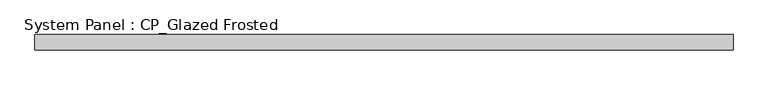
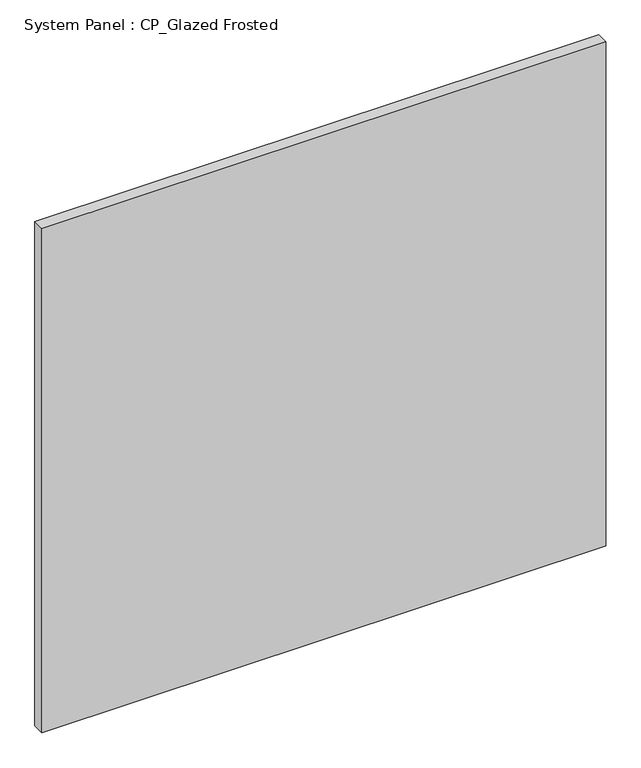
"""IFC4 building model written with IfcOpenShell, lengths in millimetres: plate geometry, System Panel : CP_Glazed Frosted."""

import ifcopenshell
import ifcopenshell.guid

model = None  # the IFC model being written
_history = None  # IfcOwnerHistory: only IFC2X3 demands one
_inside = {}  # id of a spatial element -> (the spatial element, [elements in it])
_under = {}  # id of a project, library or spatial element -> (it, [spatial elements below it])
_declared = {}  # id of a project -> (the project, [libraries it declares])
_typed = {}  # id of a type object -> (the type object, [elements of that type])
_made_of = {}  # id of a material, layer set ... -> (it, [elements and type objects made of it])


def new_model(schema):
    """Start an empty IFC model of exactly this schema.

    Asked for "IFC4X3", IfcOpenShell would pick the latest addendum, in which some entities
    have other attributes; the version numbers below select the first issue.
    IFC2X3 requires an IfcOwnerHistory on every rooted entity: one is made here for all.
    """
    global model, _history
    if schema == "IFC4X3":
        model = ifcopenshell.file(schema_version=(4, 3, 0, 0))
    else:
        model = ifcopenshell.file(schema=schema)
    _inside.clear()
    _under.clear()
    _declared.clear()
    _typed.clear()
    _made_of.clear()
    _history = None
    if model.schema == "IFC2X3":
        org = make("IfcOrganization", Name="unknown")
        user = make(
            "IfcPersonAndOrganization",
            ThePerson=make("IfcPerson", FamilyName="unknown"),
            TheOrganization=org,
        )
        app = make(
            "IfcApplication",
            ApplicationDeveloper=org,
            Version="unknown",
            ApplicationFullName="unknown",
            ApplicationIdentifier="unknown",
        )
        _history = make(
            "IfcOwnerHistory",
            OwningUser=user,
            OwningApplication=app,
            ChangeAction="ADDED",
            CreationDate=0,
        )
    return model


def make(cls, **values):
    """One entity of the class cls with the attributes given. An attribute that is None is left unset."""
    return model.create_entity(
        cls, **{name: value for name, value in values.items() if value is not None}
    )


def rooted(cls, **values):
    """An entity with a GlobalId (a new one), such as an element, a storey or a relation."""
    return make(cls, GlobalId=ifcopenshell.guid.new(), OwnerHistory=_history, **values)


def si_unit(unit_type, name, prefix=None):
    """IfcSIUnit, for example si_unit("LENGTHUNIT", "METRE", prefix="MILLI")."""
    return make("IfcSIUnit", UnitType=unit_type, Prefix=prefix, Name=name)


def assignment(units):
    """IfcUnitAssignment: the units of a project."""
    return None if units is None else make("IfcUnitAssignment", Units=units)


def point(xyz):
    """IfcCartesianPoint."""
    return None if xyz is None else make("IfcCartesianPoint", Coordinates=xyz)


def direction(xyz):
    """IfcDirection."""
    return None if xyz is None else make("IfcDirection", DirectionRatios=xyz)


def frame(location, z_axis=None, x_axis=None):
    """IfcAxis2Placement3D, a coordinate frame: its origin and axes. An axis left out is left unset."""
    return make(
        "IfcAxis2Placement3D",
        Location=point(location),
        Axis=direction(z_axis),
        RefDirection=direction(x_axis),
    )


def origin():
    """The frame at (0, 0, 0) with its axes left unset."""
    return frame((0.0, 0.0, 0.0))


def origin_with_axes():
    """The frame at (0, 0, 0) with the z axis (0, 0, 1) and the x axis (1, 0, 0) written out."""
    return frame((0.0, 0.0, 0.0), z_axis=(0.0, 0.0, 1.0), x_axis=(1.0, 0.0, 0.0))


def place(relative_to, where):
    """IfcLocalPlacement: puts the frame where relative to a parent placement (None: the world)."""
    return make(
        "IfcLocalPlacement", PlacementRelTo=relative_to, RelativePlacement=where
    )


def context(
    kind, dimensions, precision=None, world=None, true_north=None, identifier=None
):
    """IfcGeometricRepresentationContext, for example the 3D "Model" context."""
    return make(
        "IfcGeometricRepresentationContext",
        ContextIdentifier=identifier,
        ContextType=kind,
        CoordinateSpaceDimension=dimensions,
        Precision=precision,
        WorldCoordinateSystem=world,
        TrueNorth=true_north,
    )


def project(units=None, contexts=None):
    """IfcProject with its units and contexts."""
    return rooted(
        "IfcProject",
        Name="project",
        RepresentationContexts=contexts,
        UnitsInContext=assignment(units),
    )


def spatial(cls, under=None, at=None, **own):
    """A site, building, storey or space (cls), placed at a placement, below another one or the project."""
    s = rooted(cls, ObjectPlacement=at, **own)
    if under is not None:
        _under.setdefault(under.id(), (under, []))[1].append(s)
    return s


def polyline(points):
    """IfcPolyline through the points."""
    return make("IfcPolyline", Points=[point(p) for p in points])


def outline(outer, holes=None, kind="AREA"):
    """IfcArbitraryClosedProfileDef: a profile drawn as a closed curve; with holes, ...WithVoids."""
    if holes is None:
        return make("IfcArbitraryClosedProfileDef", ProfileType=kind, OuterCurve=outer)
    return make(
        "IfcArbitraryProfileDefWithVoids",
        ProfileType=kind,
        OuterCurve=outer,
        InnerCurves=holes,
    )


def extrude(swept, where, along, depth):
    """IfcExtrudedAreaSolid: the profile swept, set in the frame where, extruded along a direction by depth."""
    return make(
        "IfcExtrudedAreaSolid",
        SweptArea=swept,
        Position=where,
        ExtrudedDirection=direction(along),
        Depth=depth,
    )


def shape(context_of_items, identifier, shape_type, items):
    """IfcShapeRepresentation: the items that make up one representation, for example the "Body"."""
    return make(
        "IfcShapeRepresentation",
        ContextOfItems=context_of_items,
        RepresentationIdentifier=identifier,
        RepresentationType=shape_type,
        Items=items,
    )


def source(mapping_origin, context_of_items, identifier, shape_type, items):
    """IfcRepresentationMap: a shape defined once, which mapped items show again and again."""
    return make(
        "IfcRepresentationMap",
        MappingOrigin=mapping_origin,
        MappedRepresentation=shape(context_of_items, identifier, shape_type, items),
    )


def transform(
    local_origin,
    x_axis=None,
    y_axis=None,
    z_axis=None,
    scale=None,
    scale2=None,
    scale3=None,
    uniform=True,
):
    """IfcCartesianTransformationOperator3D, or its non-uniform kind. x_axis, y_axis, z_axis: its Axis1, 2, 3."""
    if uniform:
        return make(
            "IfcCartesianTransformationOperator3D",
            Axis1=direction(x_axis),
            Axis2=direction(y_axis),
            LocalOrigin=point(local_origin),
            Scale=scale,
            Axis3=direction(z_axis),
        )
    return make(
        "IfcCartesianTransformationOperator3DnonUniform",
        Axis1=direction(x_axis),
        Axis2=direction(y_axis),
        LocalOrigin=point(local_origin),
        Scale=scale,
        Axis3=direction(z_axis),
        Scale2=scale2,
        Scale3=scale3,
    )


def mapped(mapping_source, mapping_target):
    """IfcMappedItem: shows the shape of a source again, moved by a transform."""
    return make(
        "IfcMappedItem", MappingSource=mapping_source, MappingTarget=mapping_target
    )


def made_of(thing, what):
    """Note that an element or type object is made of a material, layer set ...; save() writes the relation."""
    if what is not None:
        _made_of.setdefault(what.id(), (what, []))[1].append(thing)
    return thing


def element(
    cls,
    number,
    at=None,
    inside=None,
    cuts=None,
    type_object=None,
    material=None,
    context=None,
    identifier="Body",
    shape_type=None,
    held_by="IfcProductDefinitionShape",
    body=None,
    shapes=None,
    **own,
):
    """One element of the class cls, such as IfcWall. Its Tag is "e" and its number.

    at: its placement. inside: the storey or other place that contains it. cuts: it is an
    opening in that element (IfcRelVoidsElement). A single representation is given by context,
    identifier, shape_type and body (its items); several are given by shapes. held_by: the class
    of the entity that holds the representations. save() writes the other relations.
    """
    e = rooted(cls, Tag="e%d" % number, ObjectPlacement=at, **own)
    if body is not None:
        shapes = [shape(context, identifier, shape_type, body)]
    if shapes is not None:
        e.Representation = make(held_by, Representations=shapes)
    if inside is not None:
        _inside.setdefault(inside.id(), (inside, []))[1].append(e)
    if cuts is not None:
        rooted(
            "IfcRelVoidsElement", RelatingBuildingElement=cuts, RelatedOpeningElement=e
        )
    if type_object is not None:
        _typed.setdefault(type_object.id(), (type_object, []))[1].append(e)
    return made_of(e, material)


def aggregate(whole, parts):
    """IfcRelAggregates: a whole, such as a stair, and the parts it consists of."""
    return rooted("IfcRelAggregates", RelatingObject=whole, RelatedObjects=parts)


def save(model, path):
    """Write the relations noted so far, then the file.

    IfcRelAggregates (storeys below a building ...), IfcRelContainedInSpatialStructure (elements
    in a storey), IfcRelDefinesByType, IfcRelAssociatesMaterial and IfcRelDeclares: one each for
    every whole, place, type object, material and project.
    """
    for whole, parts in _under.values():
        aggregate(whole, parts)
    for where, things in _inside.values():
        rooted(
            "IfcRelContainedInSpatialStructure",
            RelatedElements=things,
            RelatingStructure=where,
        )
    for kind, things in _typed.values():
        rooted("IfcRelDefinesByType", RelatedObjects=things, RelatingType=kind)
    for what, things in _made_of.values():
        rooted("IfcRelAssociatesMaterial", RelatedObjects=things, RelatingMaterial=what)
    for by, libraries in _declared.values():
        rooted("IfcRelDeclares", RelatingContext=by, RelatedDefinitions=libraries)
    model.write(path)


def system_panel_cp_glazed_frosted_0acde592(model_context):
    return source(origin(), model_context, "Body", "SweptSolid", [
        extrude(outline(polyline([(583.803125, 19.05), (-583.803125, 19.05), (-583.803125, 44.45), (583.803125, 44.45), (583.803125, 19.05)])), origin_with_axes(), (0.0, 0.0, 1.0), 1104.9),
    ])


if __name__ == "__main__":
    model = new_model("IFC4")
    model_context = context("Model", 3, world=origin())
    ifc_project = project(units=[si_unit("LENGTHUNIT", "METRE", prefix="MILLI")], contexts=[model_context])
    site = spatial("IfcSite", under=ifc_project)
    building = spatial("IfcBuilding", under=site)
    placement = place(None, origin())
    system_panel_cp_glazed_frosted_shape = system_panel_cp_glazed_frosted_0acde592(model_context)
    element("IfcPlate", 1, ObjectType="System Panel : CP_Glazed Frosted", at=placement, inside=building, context=model_context, shape_type="MappedRepresentation", body=[
        mapped(system_panel_cp_glazed_frosted_shape, transform((0.0, 0.0, 0.0), x_axis=(1.0, 0.0, 0.0), y_axis=(0.0, 1.0, 0.0), z_axis=(0.0, 0.0, 1.0))),
    ])
    save(model, "model.ifc")
